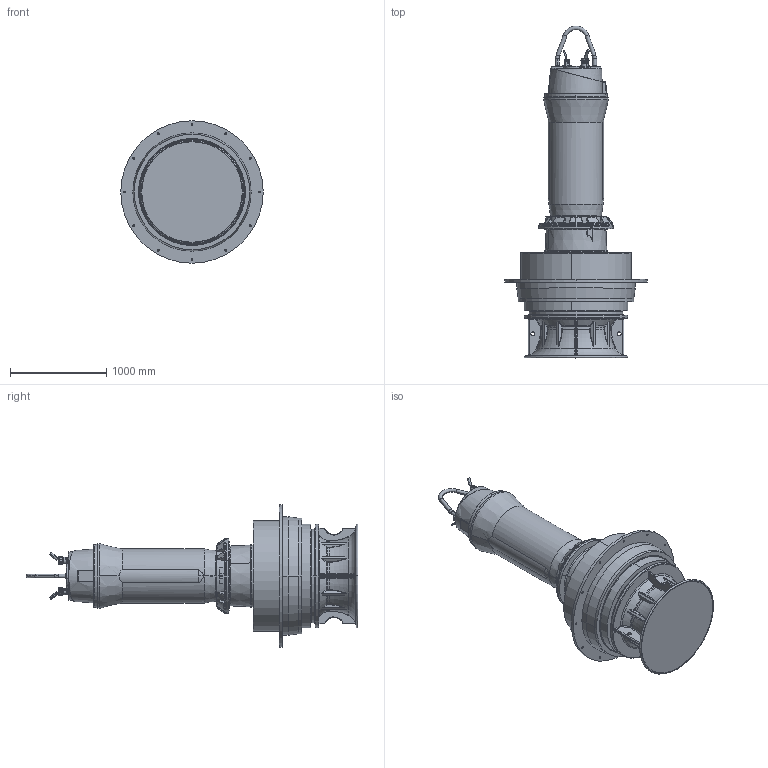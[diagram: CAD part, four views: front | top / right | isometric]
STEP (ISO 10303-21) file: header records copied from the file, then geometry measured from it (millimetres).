
FILE_DESCRIPTION (( 'STEP AP214' ), '1' );
FILE_NAME ('PE7_AFLX1202G3_FU_B.STEP', '2017-05-10T07:52:43', ( '' ), ( '' ), 'SwSTEP 2.0', 'SolidWorks 2017', '' );
FILE_SCHEMA (( 'AUTOMOTIVE_DESIGN' ));
Length unit declared in the file: millimetre
Products named in the file (1): PE7_AFLX1202G3_FU_B
Bounding box: 1480 x 3449.8 x 1480 mm (x, y, z)
Volume: 1447782356.7 mm3; surface area: 14578597.9 mm2
Topology: 4 solids, 23 shells, 3035 faces, 7320 edges, 4211 vertices
Faces by surface type: bspline 915, plane 704, cylinder 634, torus 362, cone 297, sphere 123
Entity records: 169741 total; most frequent: CARTESIAN_POINT 73226, ORIENTED_EDGE 14252, DIRECTION 11755, EDGE_CURVE 7126, AXIS2_PLACEMENT_3D 4829, VERTEX_POINT 4210, EDGE_LOOP 3196, UNCERTAINTY_MEASURE_WITH_UNIT 3041
